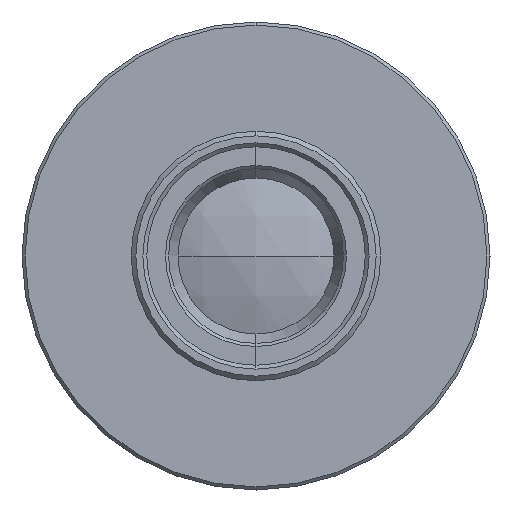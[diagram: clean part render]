
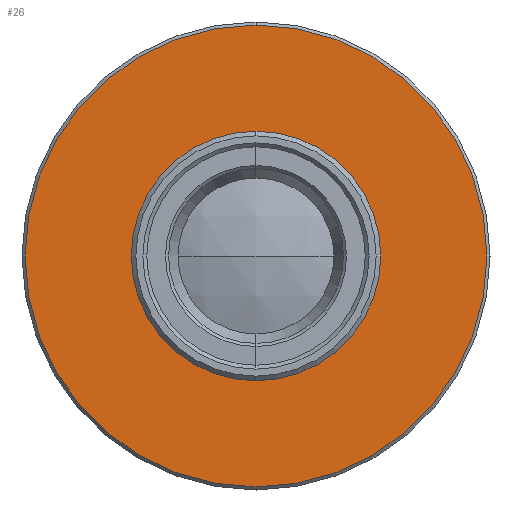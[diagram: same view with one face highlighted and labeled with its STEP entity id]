
A CAD part, left-side view. The second image highlights one B-rep face of the part: STEP entity #26.
In plain terms, the highlighted planar face has unit normal (-1, 0, 0).
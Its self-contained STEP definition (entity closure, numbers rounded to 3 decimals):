
#26 = ADVANCED_FACE ( 'NONE', ( #241, #1660 ), #345, .F. ) ;
#57 = DIRECTION ( 'NONE',  ( 0., 0., 1. ) ) ;
#79 = AXIS2_PLACEMENT_3D ( 'NONE', #1281, #407, #57 ) ;
#84 = VERTEX_POINT ( 'NONE', #1000 ) ;
#232 = EDGE_CURVE ( 'NONE', #1348, #84, #791, .T. ) ;
#233 = AXIS2_PLACEMENT_3D ( 'NONE', #2078, #331, #1029 ) ;
#241 = FACE_BOUND ( 'NONE', #2284, .T. ) ;
#246 = CARTESIAN_POINT ( 'NONE',  ( -19.526, 0., -14.8 ) ) ;
#298 = ORIENTED_EDGE ( 'NONE', *, *, #1297, .T. ) ;
#326 = AXIS2_PLACEMENT_3D ( 'NONE', #1209, #1026, #699 ) ;
#331 = DIRECTION ( 'NONE',  ( -1., 0., 0. ) ) ;
#345 = PLANE ( 'NONE',  #326 ) ;
#407 = DIRECTION ( 'NONE',  ( -1., 0., 0. ) ) ;
#498 = CARTESIAN_POINT ( 'NONE',  ( -19.526, 0., 14.8 ) ) ;
#499 = CIRCLE ( 'NONE', #1147, 8. ) ;
#501 = DIRECTION ( 'NONE',  ( -1., 0., 0. ) ) ;
#699 = DIRECTION ( 'NONE',  ( 0., 0., -1. ) ) ;
#766 = AXIS2_PLACEMENT_3D ( 'NONE', #1064, #501, #1031 ) ;
#768 = VERTEX_POINT ( 'NONE', #498 ) ;
#791 = CIRCLE ( 'NONE', #79, 8. ) ;
#909 = DIRECTION ( 'NONE',  ( -1., 0., 0. ) ) ;
#970 = EDGE_CURVE ( 'NONE', #2130, #768, #2273, .T. ) ;
#1000 = CARTESIAN_POINT ( 'NONE',  ( -19.526, 0., -8. ) ) ;
#1026 = DIRECTION ( 'NONE',  ( 1., 0., 0. ) ) ;
#1029 = DIRECTION ( 'NONE',  ( 0., 0., 1. ) ) ;
#1031 = DIRECTION ( 'NONE',  ( 0., 0., 1. ) ) ;
#1039 = CARTESIAN_POINT ( 'NONE',  ( -19.526, 0., 8. ) ) ;
#1064 = CARTESIAN_POINT ( 'NONE',  ( -19.526, 0., 0. ) ) ;
#1147 = AXIS2_PLACEMENT_3D ( 'NONE', #1967, #909, #1413 ) ;
#1209 = CARTESIAN_POINT ( 'NONE',  ( -19.526, 14.8, 0. ) ) ;
#1218 = ORIENTED_EDGE ( 'NONE', *, *, #232, .F. ) ;
#1281 = CARTESIAN_POINT ( 'NONE',  ( -19.526, 0., 0. ) ) ;
#1297 = EDGE_CURVE ( 'NONE', #768, #2130, #2260, .T. ) ;
#1330 = EDGE_LOOP ( 'NONE', ( #1951, #298 ) ) ;
#1348 = VERTEX_POINT ( 'NONE', #1039 ) ;
#1413 = DIRECTION ( 'NONE',  ( 0., 0., 1. ) ) ;
#1607 = EDGE_CURVE ( 'NONE', #84, #1348, #499, .T. ) ;
#1660 = FACE_OUTER_BOUND ( 'NONE', #1330, .T. ) ;
#1681 = ORIENTED_EDGE ( 'NONE', *, *, #1607, .F. ) ;
#1951 = ORIENTED_EDGE ( 'NONE', *, *, #970, .T. ) ;
#1967 = CARTESIAN_POINT ( 'NONE',  ( -19.526, 0., 0. ) ) ;
#2078 = CARTESIAN_POINT ( 'NONE',  ( -19.526, 0., 0. ) ) ;
#2130 = VERTEX_POINT ( 'NONE', #246 ) ;
#2260 = CIRCLE ( 'NONE', #233, 14.8 ) ;
#2273 = CIRCLE ( 'NONE', #766, 14.8 ) ;
#2284 = EDGE_LOOP ( 'NONE', ( #1218, #1681 ) ) ;
